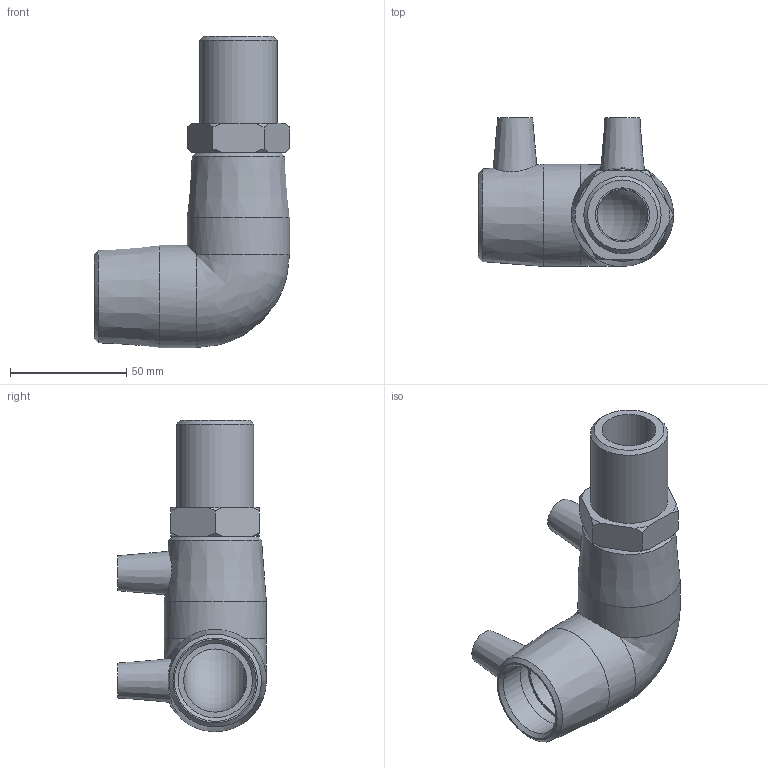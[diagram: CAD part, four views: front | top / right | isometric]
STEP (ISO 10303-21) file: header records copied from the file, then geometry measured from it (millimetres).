
FILE_DESCRIPTION(/* description */ ('PLASSON 90° ELBOW MALE TRANSITION 32 x 1"'),/* implementation_level */ '2;1');
FILE_NAME(/* name */ 'C:\Dropbox\KIMPROJECTS-Inventor\99-16-3568-Processing\ElectroFusion Fittings\02.02.20\492504\492504032010N.ipt.stp',/* time_stamp */ '2020-02-02T12:19:17+02:00',/* author */ ('KIM'),/* organization */ (''),/* preprocessor_version */ 'ST-DEVELOPER v15.6',/* originating_system */ 'Autodesk Inventor 2015',/* authorisation */ '');
FILE_SCHEMA (('AUTOMOTIVE_DESIGN { 1 0 10303 214 3 1 1 }'));
Length unit declared in the file: millimetre
Products named in the file (1): 492504032010N
Bounding box: 84 x 64 x 134 mm (x, y, z)
Volume: 134302.2 mm3; surface area: 41727.8 mm2
Topology: 1 solids, 2 shells, 59 faces, 134 edges, 87 vertices
Faces by surface type: plane 22, cone 22, cylinder 13, bspline 1, torus 1
Full cylindrical faces by diameter (mm): 4 x2, 10 x2, 22 x1, 23.274 x1, 32 x4, 33.249 x1, 44 x2
Entity records: 1514 total; most frequent: CARTESIAN_POINT 371, DIRECTION 238, ORIENTED_EDGE 190, AXIS2_PLACEMENT_3D 110, EDGE_LOOP 99, EDGE_CURVE 95, VERTEX_POINT 76, FACE_OUTER_BOUND 59
